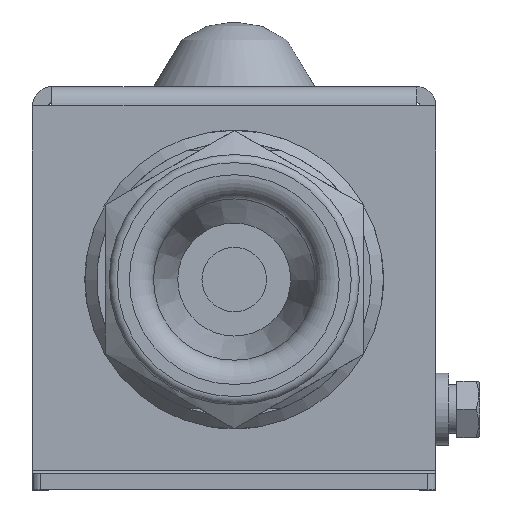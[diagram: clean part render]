
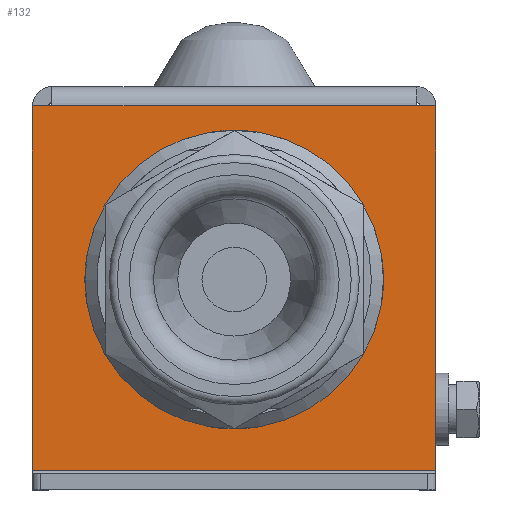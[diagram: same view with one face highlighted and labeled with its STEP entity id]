
A CAD part, left-side view. The second image highlights one B-rep face of the part: STEP entity #132.
In plain terms, the highlighted planar face has unit normal (-1, 0, 0).
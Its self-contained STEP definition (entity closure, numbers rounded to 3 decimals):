
#132=ADVANCED_FACE('',(#2336,#2338),#2340,.T.);
#2336=FACE_BOUND('',#2337,.T.);
#2337=EDGE_LOOP('',(#4373));
#2338=FACE_OUTER_BOUND('',#2339,.T.);
#2339=EDGE_LOOP('',(#4374,#4375,#4376,#4377,#4378,#4379));
#2340=PLANE('',#2341);
#2341=AXIS2_PLACEMENT_3D('',#2342,#2343,#2344);
#2342=CARTESIAN_POINT('',(-26.,0.,24.928));
#2343=DIRECTION('',(-1.,0.,0.));
#2344=DIRECTION('',(0.,0.,1.));
#4373=ORIENTED_EDGE('',*,*,#6086,.F.);
#4374=ORIENTED_EDGE('',*,*,#6105,.F.);
#4375=ORIENTED_EDGE('',*,*,#6106,.T.);
#4376=ORIENTED_EDGE('',*,*,#6107,.F.);
#4377=ORIENTED_EDGE('',*,*,#6108,.F.);
#4378=ORIENTED_EDGE('',*,*,#6109,.F.);
#4379=ORIENTED_EDGE('',*,*,#6110,.T.);
#6086=EDGE_CURVE('',#6658,#6658,#6659,.F.);
#6105=EDGE_CURVE('',#6687,#6688,#6689,.T.);
#6106=EDGE_CURVE('',#6687,#6690,#6691,.T.);
#6107=EDGE_CURVE('',#6692,#6690,#6693,.T.);
#6108=EDGE_CURVE('',#6694,#6692,#6695,.T.);
#6109=EDGE_CURVE('',#6696,#6694,#6697,.T.);
#6110=EDGE_CURVE('',#6696,#6688,#6698,.T.);
#6658=VERTEX_POINT('',#8401);
#6659=CIRCLE('',#8402,14.3);
#6687=VERTEX_POINT('',#8634);
#6688=VERTEX_POINT('',#8635);
#6689=LINE('',#8636,#8637);
#6690=VERTEX_POINT('',#8639);
#6691=LINE('',#8640,#8641);
#6692=VERTEX_POINT('',#8643);
#6693=LINE('',#8644,#8645);
#6694=VERTEX_POINT('',#8647);
#6695=LINE('',#8648,#8649);
#6696=VERTEX_POINT('',#8651);
#6697=LINE('',#8652,#8653);
#6698=LINE('',#8655,#8656);
#8401=CARTESIAN_POINT('',(-26.,0.,-7.623));
#8402=AXIS2_PLACEMENT_3D('',#8403,#8404,#8405);
#8403=CARTESIAN_POINT('',(-26.,0.,-21.923));
#8404=DIRECTION('',(1.,-0.,0.));
#8405=DIRECTION('',(0.,0.,1.));
#8634=CARTESIAN_POINT('',(-26.,-25.,-45.6));
#8635=CARTESIAN_POINT('',(-26.,25.,-45.6));
#8636=CARTESIAN_POINT('',(-26.,-25.,-45.6));
#8637=VECTOR('',#8638,1.);
#8638=DIRECTION('',(0.,1.,0.));
#8639=CARTESIAN_POINT('',(-26.,-25.,-0.4));
#8640=CARTESIAN_POINT('',(-26.,-25.,-45.6));
#8641=VECTOR('',#8642,1.);
#8642=DIRECTION('',(0.,0.,1.));
#8643=CARTESIAN_POINT('',(-26.,-22.6,-0.4));
#8644=CARTESIAN_POINT('',(-26.,-22.6,-0.4));
#8645=VECTOR('',#8646,1.);
#8646=DIRECTION('',(0.,-1.,0.));
#8647=CARTESIAN_POINT('',(-26.,22.6,-0.4));
#8648=CARTESIAN_POINT('',(-26.,22.6,-0.4));
#8649=VECTOR('',#8650,1.);
#8650=DIRECTION('',(0.,-1.,0.));
#8651=CARTESIAN_POINT('',(-26.,25.,-0.4));
#8652=CARTESIAN_POINT('',(-26.,25.,-0.4));
#8653=VECTOR('',#8654,1.);
#8654=DIRECTION('',(0.,-1.,0.));
#8655=CARTESIAN_POINT('',(-26.,25.,-0.4));
#8656=VECTOR('',#8657,1.);
#8657=DIRECTION('',(0.,0.,-1.));
